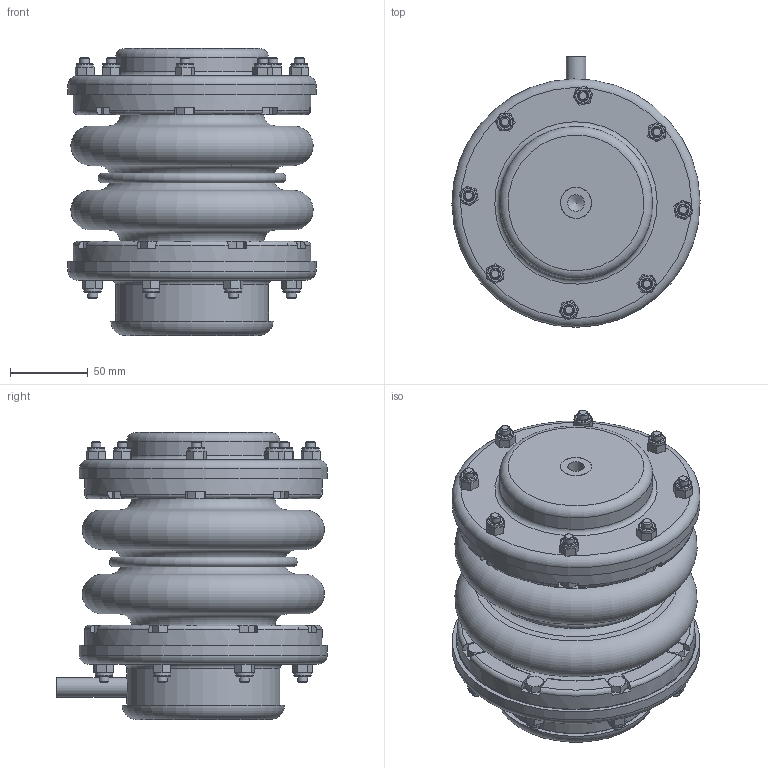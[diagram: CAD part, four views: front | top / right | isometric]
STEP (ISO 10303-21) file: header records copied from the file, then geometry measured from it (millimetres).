
FILE_DESCRIPTION((''),'2;1');
FILE_NAME('C:\2012_Work\Designs\MT MOUNTS\MT-3\MT-3 ASSEMBLY.stp','2013-11-05T13:29:17',('KShiels'),(''),'Autodesk Inventor 2012','Autodesk Inventor 2012','');
FILE_SCHEMA(('AUTOMOTIVE_DESIGN { 1 0 10303 214 1 1 1 1 }'));
Length unit declared in the file: inch
Products named in the file (10): MT-3 ASSEMBLY; MT-3 FRICTION PAD; MT-3 BOTTOM HOUSING; MT-3 RUBBER BELLOWS; MT-3 INNER CASTING; MT-3 NIPPLE; MT-3 TOP HOUSING; MT-3 TAPED ROUND STOCK; 0; Hex Bolt - Inch 1/4-20 UNC - 1.25
Assembly tree (40 placements, depth 2):
  MT-3 ASSEMBLY
    MT-3 FRICTION PAD
    MT-3 BOTTOM HOUSING
    MT-3 RUBBER BELLOWS
    MT-3 INNER CASTING  x2
    MT-3 NIPPLE
    MT-3 TOP HOUSING
    MT-3 TAPED ROUND STOCK
    0  x16
    Hex Bolt - Inch 1/4-20 UNC - 1.25  x16
Bounding box: 159.2 x 173.7 x 184.16 mm (x, y, z)
Volume: 1019839.5 mm3; surface area: 521102.3 mm2
Topology: 55 solids, 73 shells, 1424 faces, 3415 edges, 2071 vertices
Faces by surface type: plane 880, torus 230, cylinder 177, cone 137
Full cylindrical faces by diameter (mm): 6.35 x32, 6.604 x16, 6.747 x16, 7 x16, 7.144 x16, 9.6 x1, 10.592 x1, 11.113 x16, 11.125 x16, 12.6 x1, 13 x1, 20 x3, 25.4 x1, 26 x1, 46 x1, 52 x1, 72 x1, 78 x1, 85.725 x2, 92.075 x4, 93 x2, 98.2 x2, 123.825 x4, 152.4 x2, 154 x2, 159.2 x2
Entity records: 10925 total; most frequent: CARTESIAN_POINT 2209, DIRECTION 1854, ORIENTED_EDGE 1282, AXIS2_PLACEMENT_3D 853, EDGE_LOOP 692, EDGE_CURVE 641, VERTEX_POINT 457, CIRCLE 398
